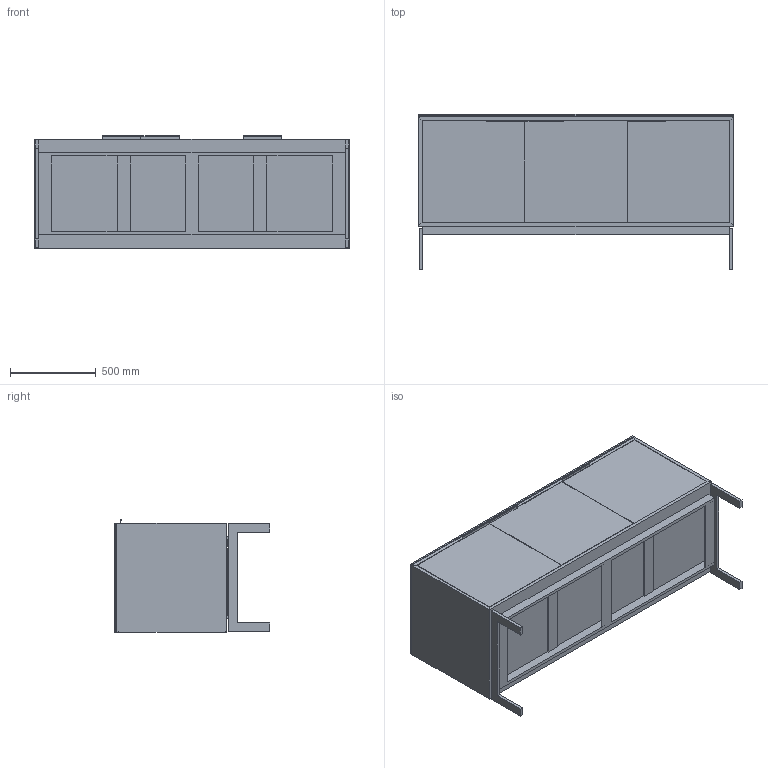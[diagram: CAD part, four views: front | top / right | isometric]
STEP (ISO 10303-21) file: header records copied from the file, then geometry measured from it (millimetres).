
FILE_DESCRIPTION(/* description */ ('','CAx-IF Rec.Pracs.---Representation and Presentation of Product Manufacturing Information (PMI)---4.0---2014-10-13'),/* implementation_level */ '2;1');
FILE_NAME(/* name */ 'CREDENZA STORAGE_ELEVATE 4.stp',/* time_stamp */ '2024-12-07T17:59:07-05:00',/* author */ ('mbowman'),/* organization */ (''),/* preprocessor_version */ 'ST-DEVELOPER v19.2',/* originating_system */ 'Autodesk Inventor 2023',/* authorisation */ '');
FILE_SCHEMA (('AP242_MANAGED_MODEL_BASED_3D_ENGINEERING_MIM_LF { 1 0 10303 442 1 1 4 }'));
Length unit declared in the file: inch
Products named in the file (3): ELEVATE^CREDENZA 35h_25x72 3 DOOR-SOLID ASSEMBLY; ELEVATE^CREDENZA 35h_25x72 4 DOOR-PARTS SOLID; HAFELE 106.04.06-3 FINISHES
Assembly tree (4 placements, depth 2):
  ELEVATE^CREDENZA 35h_25x72 3 DOOR-SOLID ASSEMBLY
    ELEVATE^CREDENZA 35h_25x72 4 DOOR-PARTS SOLID
    HAFELE 106.04.06-3 FINISHES  x3
Bounding box: 1828.8 x 904.88 x 654.05 mm (x, y, z)
Volume: 137211270.8 mm3; surface area: 18347024.7 mm2
Topology: 16 solids, 16 shells, 189 faces, 472 edges, 310 vertices
Faces by surface type: plane 165, cylinder 18, cone 6
Entity records: 5488 total; most frequent: CARTESIAN_POINT 1238, ORIENTED_EDGE 712, DIRECTION 692, EDGE_CURVE 356, LINE 340, VECTOR 340, STYLED_ITEM 307, VERTEX_POINT 234
